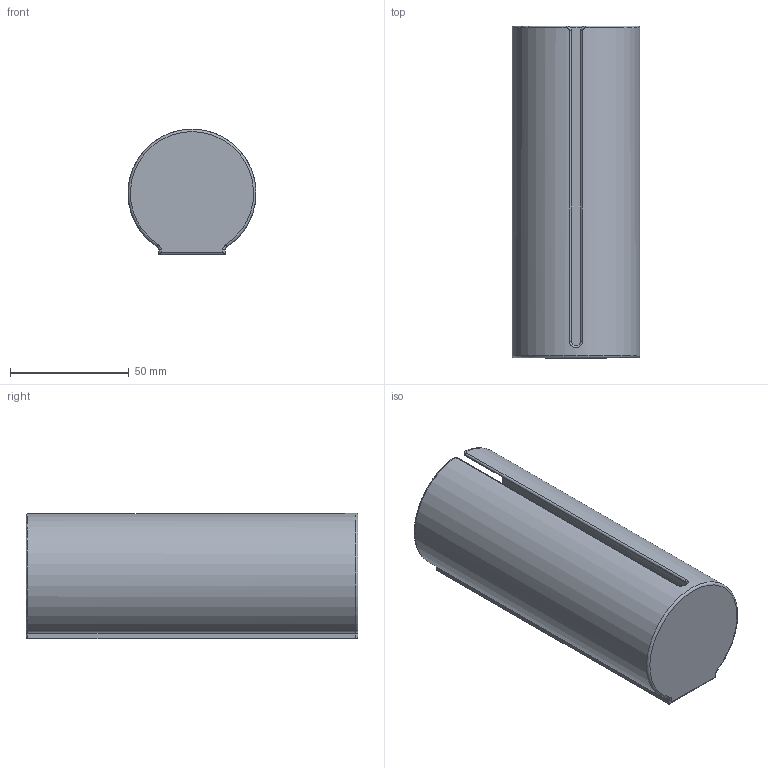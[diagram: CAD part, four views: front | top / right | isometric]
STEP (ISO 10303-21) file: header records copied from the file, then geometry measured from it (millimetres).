
FILE_DESCRIPTION(('Open CASCADE Model'),'2;1');
FILE_NAME('Open CASCADE Shape Model','2026-03-29T15:01:49',('Author'),( 'Open CASCADE'),'Open CASCADE STEP processor 7.9','Open CASCADE 7.9' ,'Unknown');
FILE_SCHEMA(('AUTOMOTIVE_DESIGN { 1 0 10303 214 1 1 1 1 }'));
Length unit declared in the file: millimetre
Products named in the file (1): COMPOUND
Bounding box: 53.98 x 140 x 53 mm (x, y, z)
Volume: 39203.7 mm3; surface area: 51289.3 mm2
Topology: 1 solids, 1 shells, 181 faces, 448 edges, 273 vertices
Faces by surface type: plane 132, cylinder 25, torus 12, bspline 10, revolution 2
Entity records: 12489 total; most frequent: CARTESIAN_POINT 3547, DIRECTION 1635, LINE 1142, VECTOR 1142, ORIENTED_EDGE 896, PCURVE 896, DEFINITIONAL_REPRESENTATION 896, EDGE_CURVE 448
